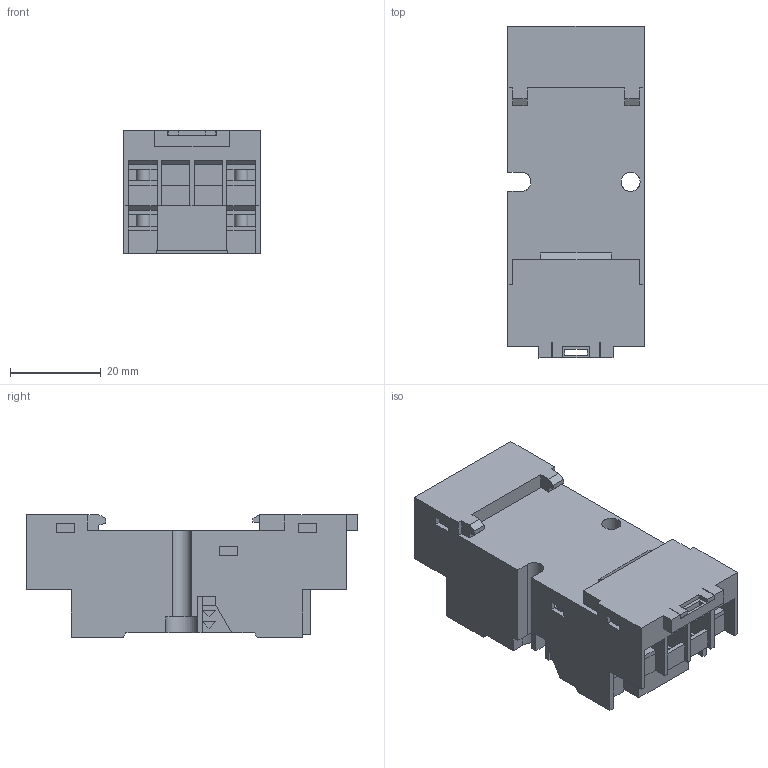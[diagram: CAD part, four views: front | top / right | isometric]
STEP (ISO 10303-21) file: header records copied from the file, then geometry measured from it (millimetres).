
FILE_DESCRIPTION(('STEP AP214'),'2;1');
FILE_NAME('94.72+morsetti_catalogo.stp','2011-05-26T12:58:09',(''),(''),'2007.1.106','THINKDESIGN','');
FILE_SCHEMA(('AUTOMOTIVE_DESIGN'));
Length unit declared in the file: millimetre
Products named in the file (1): None
Bounding box: 30 x 73 x 27 mm (x, y, z)
Surface area: 21656.4 mm2 (no closed solid volume)
Topology: 0 solids, 0 shells, 621 faces, 3838 edges, 3826 vertices
Faces by surface type: plane 570, cylinder 27, bspline 24
Full cylindrical faces by diameter (mm): 3 x1, 4.2 x1, 4.7 x8, 4.8 x14
Entity records: 37385 total; most frequent: CARTESIAN_POINT 9743, DIRECTION 4908, COMPOSITE_CURVE_SEGMENT 3814, TRIMMED_CURVE 3585, VECTOR 3456, LINE 3456, AXIS2_PLACEMENT_3D 726, STYLED_ITEM 621
